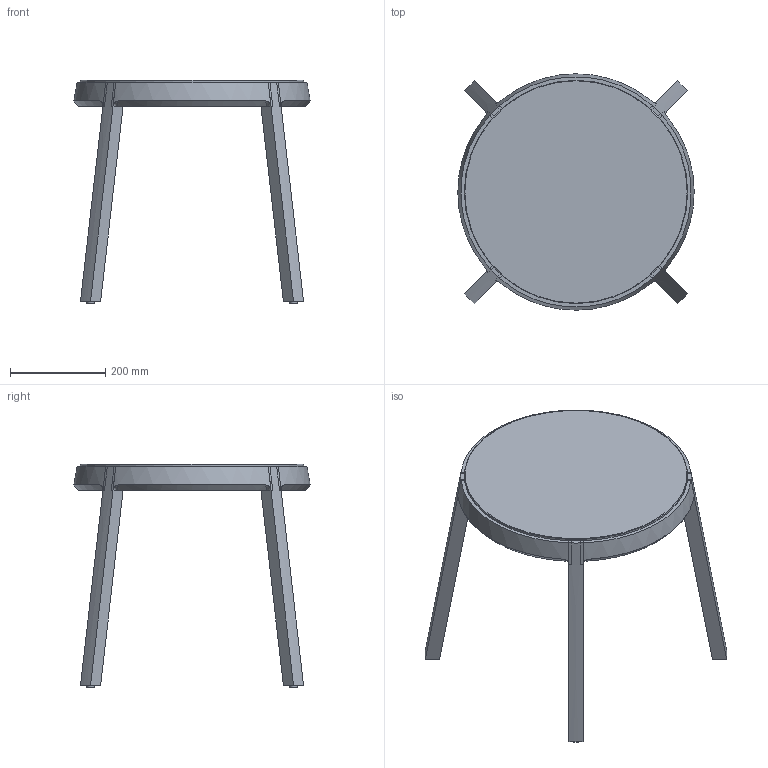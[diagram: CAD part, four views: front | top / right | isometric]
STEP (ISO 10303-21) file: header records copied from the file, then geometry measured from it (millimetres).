
FILE_DESCRIPTION(/* description */ (''),/* implementation_level */ '2;1');
FILE_NAME(/* name */ 'C:/Users/manul/Documents/2021-22 Master EASD/practicas/archivos_3d_para_renders/ARO_mesa_694.step',/* time_stamp */ '2022-01-11T09:03:45+01:00',/* author */ (''),/* organization */ (''),/* preprocessor_version */ 'ST-DEVELOPER v18.1',/* originating_system */ 'Autodesk Translation Framework v10.10.0.1391',/* authorisation */ '');
FILE_SCHEMA (('AUTOMOTIVE_DESIGN { 1 0 10303 214 3 1 1 }'));
Length unit declared in the file: millimetre
Products named in the file (3): 694; 691T; TapaO46
Assembly tree (2 placements, depth 2):
  694
    691T
    TapaO46
Bounding box: 497.51 x 497.51 x 470 mm (x, y, z)
Volume: 2083580.4 mm3; surface area: 928617.9 mm2
Topology: 1 solids, 102 shells, 107 faces, 464 edges, 448 vertices
Faces by surface type: plane 67, bspline 33, cylinder 6, torus 1
Full cylindrical faces by diameter (mm): 15 x4, 440 x1, 470 x1
Entity records: 8236 total; most frequent: CARTESIAN_POINT 4491, DIRECTION 662, ORIENTED_EDGE 468, EDGE_CURVE 455, VERTEX_POINT 448, LINE 242, VECTOR 242, AXIS2_PLACEMENT_3D 210
